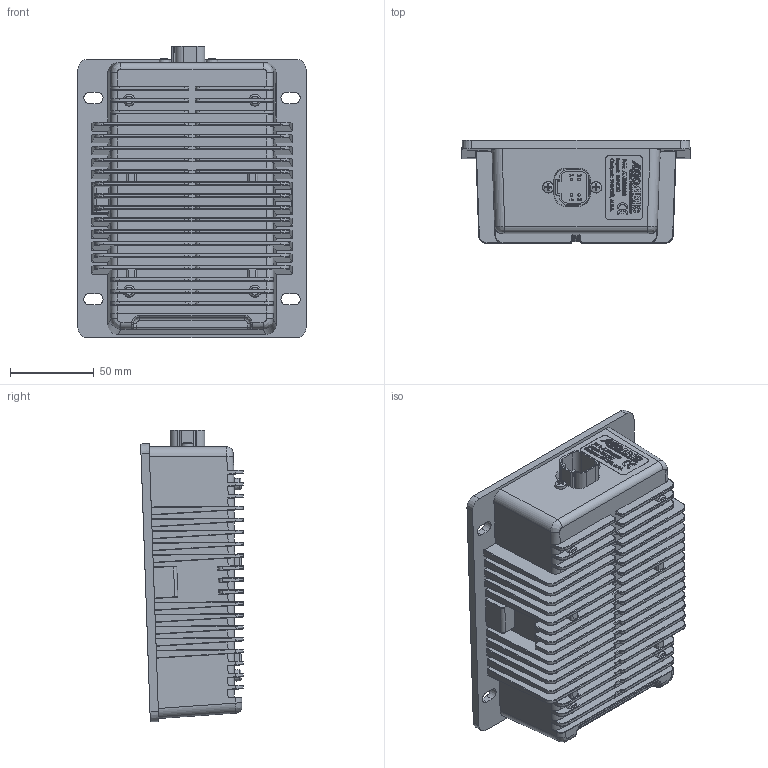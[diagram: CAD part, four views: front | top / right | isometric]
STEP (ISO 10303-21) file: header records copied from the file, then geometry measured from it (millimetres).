
FILE_DESCRIPTION(/* description */ (''),/* implementation_level */ '2;1');
FILE_NAME(/* name */ 'S:\Projects\PS-24-24-5A-I, AX080900, Proj#15014\UNIT ASSEMBLY\RELEASED\A\AX080900.stp',/* time_stamp */ '2019-01-28T15:49:19-05:00',/* author */ ('tfisher'),/* organization */ (''),/* preprocessor_version */ 'ST-DEVELOPER v15.2',/* originating_system */ 'Autodesk Inventor 2014',/* authorisation */ '');
FILE_SCHEMA (('AUTOMOTIVE_DESIGN { 1 0 10303 214 3 1 1 }'));
Products named in the file (1): FG-AX080900 for STEP_Shrinkwrap_1
Bounding box: 136 x 61.22 x 173.75 mm (x, y, z)
Volume: 367659.8 mm3; surface area: 174465.5 mm2
Topology: 1 solids, 22 shells, 3274 faces, 8557 edges, 5510 vertices
Faces by surface type: plane 1596, bspline 768, cylinder 719, cone 119, torus 68, sphere 4
Full cylindrical faces by diameter (mm): 1.575 x8, 2.794 x4, 3.251 x4, 3.505 x2, 4.14 x6, 5 x6, 6.35 x4, 7.925 x2, 8.9 x6
Entity records: 120037 total; most frequent: CARTESIAN_POINT 40411, ORIENTED_EDGE 16770, DIRECTION 14055, EDGE_CURVE 8385, VERTEX_POINT 5438, LINE 5123, VECTOR 5123, AXIS2_PLACEMENT_3D 4466
